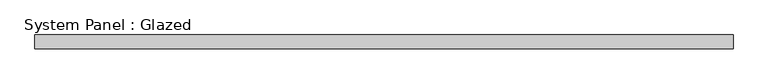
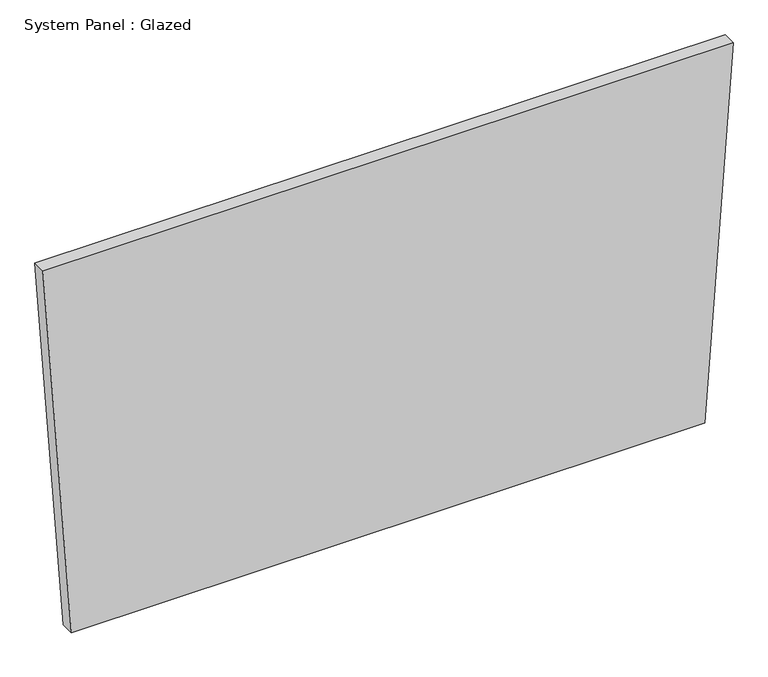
"""IFC4 building model written with IfcOpenShell, lengths in millimetres: plate geometry, System Panel : Glazed."""

import ifcopenshell
import ifcopenshell.guid

model = None  # the IFC model being written
_history = None  # IfcOwnerHistory: only IFC2X3 demands one
_inside = {}  # id of a spatial element -> (the spatial element, [elements in it])
_under = {}  # id of a project, library or spatial element -> (it, [spatial elements below it])
_declared = {}  # id of a project -> (the project, [libraries it declares])
_typed = {}  # id of a type object -> (the type object, [elements of that type])
_made_of = {}  # id of a material, layer set ... -> (it, [elements and type objects made of it])


def new_model(schema):
    """Start an empty IFC model of exactly this schema.

    Asked for "IFC4X3", IfcOpenShell would pick the latest addendum, in which some entities
    have other attributes; the version numbers below select the first issue.
    IFC2X3 requires an IfcOwnerHistory on every rooted entity: one is made here for all.
    """
    global model, _history
    if schema == "IFC4X3":
        model = ifcopenshell.file(schema_version=(4, 3, 0, 0))
    else:
        model = ifcopenshell.file(schema=schema)
    _inside.clear()
    _under.clear()
    _declared.clear()
    _typed.clear()
    _made_of.clear()
    _history = None
    if model.schema == "IFC2X3":
        org = make("IfcOrganization", Name="unknown")
        user = make(
            "IfcPersonAndOrganization",
            ThePerson=make("IfcPerson", FamilyName="unknown"),
            TheOrganization=org,
        )
        app = make(
            "IfcApplication",
            ApplicationDeveloper=org,
            Version="unknown",
            ApplicationFullName="unknown",
            ApplicationIdentifier="unknown",
        )
        _history = make(
            "IfcOwnerHistory",
            OwningUser=user,
            OwningApplication=app,
            ChangeAction="ADDED",
            CreationDate=0,
        )
    return model


def make(cls, **values):
    """One entity of the class cls with the attributes given. An attribute that is None is left unset."""
    return model.create_entity(
        cls, **{name: value for name, value in values.items() if value is not None}
    )


def rooted(cls, **values):
    """An entity with a GlobalId (a new one), such as an element, a storey or a relation."""
    return make(cls, GlobalId=ifcopenshell.guid.new(), OwnerHistory=_history, **values)


def si_unit(unit_type, name, prefix=None):
    """IfcSIUnit, for example si_unit("LENGTHUNIT", "METRE", prefix="MILLI")."""
    return make("IfcSIUnit", UnitType=unit_type, Prefix=prefix, Name=name)


def assignment(units):
    """IfcUnitAssignment: the units of a project."""
    return None if units is None else make("IfcUnitAssignment", Units=units)


def point(xyz):
    """IfcCartesianPoint."""
    return None if xyz is None else make("IfcCartesianPoint", Coordinates=xyz)


def direction(xyz):
    """IfcDirection."""
    return None if xyz is None else make("IfcDirection", DirectionRatios=xyz)


def frame(location, z_axis=None, x_axis=None):
    """IfcAxis2Placement3D, a coordinate frame: its origin and axes. An axis left out is left unset."""
    return make(
        "IfcAxis2Placement3D",
        Location=point(location),
        Axis=direction(z_axis),
        RefDirection=direction(x_axis),
    )


def origin():
    """The frame at (0, 0, 0) with its axes left unset."""
    return frame((0.0, 0.0, 0.0))


def place(relative_to, where):
    """IfcLocalPlacement: puts the frame where relative to a parent placement (None: the world)."""
    return make(
        "IfcLocalPlacement", PlacementRelTo=relative_to, RelativePlacement=where
    )


def context(
    kind, dimensions, precision=None, world=None, true_north=None, identifier=None
):
    """IfcGeometricRepresentationContext, for example the 3D "Model" context."""
    return make(
        "IfcGeometricRepresentationContext",
        ContextIdentifier=identifier,
        ContextType=kind,
        CoordinateSpaceDimension=dimensions,
        Precision=precision,
        WorldCoordinateSystem=world,
        TrueNorth=true_north,
    )


def project(units=None, contexts=None):
    """IfcProject with its units and contexts."""
    return rooted(
        "IfcProject",
        Name="project",
        RepresentationContexts=contexts,
        UnitsInContext=assignment(units),
    )


def spatial(cls, under=None, at=None, **own):
    """A site, building, storey or space (cls), placed at a placement, below another one or the project."""
    s = rooted(cls, ObjectPlacement=at, **own)
    if under is not None:
        _under.setdefault(under.id(), (under, []))[1].append(s)
    return s


def polyline(points):
    """IfcPolyline through the points."""
    return make("IfcPolyline", Points=[point(p) for p in points])


def outline(outer, holes=None, kind="AREA"):
    """IfcArbitraryClosedProfileDef: a profile drawn as a closed curve; with holes, ...WithVoids."""
    if holes is None:
        return make("IfcArbitraryClosedProfileDef", ProfileType=kind, OuterCurve=outer)
    return make(
        "IfcArbitraryProfileDefWithVoids",
        ProfileType=kind,
        OuterCurve=outer,
        InnerCurves=holes,
    )


def extrude(swept, where, along, depth):
    """IfcExtrudedAreaSolid: the profile swept, set in the frame where, extruded along a direction by depth."""
    return make(
        "IfcExtrudedAreaSolid",
        SweptArea=swept,
        Position=where,
        ExtrudedDirection=direction(along),
        Depth=depth,
    )


def shape(context_of_items, identifier, shape_type, items):
    """IfcShapeRepresentation: the items that make up one representation, for example the "Body"."""
    return make(
        "IfcShapeRepresentation",
        ContextOfItems=context_of_items,
        RepresentationIdentifier=identifier,
        RepresentationType=shape_type,
        Items=items,
    )


def source(mapping_origin, context_of_items, identifier, shape_type, items):
    """IfcRepresentationMap: a shape defined once, which mapped items show again and again."""
    return make(
        "IfcRepresentationMap",
        MappingOrigin=mapping_origin,
        MappedRepresentation=shape(context_of_items, identifier, shape_type, items),
    )


def transform(
    local_origin,
    x_axis=None,
    y_axis=None,
    z_axis=None,
    scale=None,
    scale2=None,
    scale3=None,
    uniform=True,
):
    """IfcCartesianTransformationOperator3D, or its non-uniform kind. x_axis, y_axis, z_axis: its Axis1, 2, 3."""
    if uniform:
        return make(
            "IfcCartesianTransformationOperator3D",
            Axis1=direction(x_axis),
            Axis2=direction(y_axis),
            LocalOrigin=point(local_origin),
            Scale=scale,
            Axis3=direction(z_axis),
        )
    return make(
        "IfcCartesianTransformationOperator3DnonUniform",
        Axis1=direction(x_axis),
        Axis2=direction(y_axis),
        LocalOrigin=point(local_origin),
        Scale=scale,
        Axis3=direction(z_axis),
        Scale2=scale2,
        Scale3=scale3,
    )


def mapped(mapping_source, mapping_target):
    """IfcMappedItem: shows the shape of a source again, moved by a transform."""
    return make(
        "IfcMappedItem", MappingSource=mapping_source, MappingTarget=mapping_target
    )


def made_of(thing, what):
    """Note that an element or type object is made of a material, layer set ...; save() writes the relation."""
    if what is not None:
        _made_of.setdefault(what.id(), (what, []))[1].append(thing)
    return thing


def element(
    cls,
    number,
    at=None,
    inside=None,
    cuts=None,
    type_object=None,
    material=None,
    context=None,
    identifier="Body",
    shape_type=None,
    held_by="IfcProductDefinitionShape",
    body=None,
    shapes=None,
    **own,
):
    """One element of the class cls, such as IfcWall. Its Tag is "e" and its number.

    at: its placement. inside: the storey or other place that contains it. cuts: it is an
    opening in that element (IfcRelVoidsElement). A single representation is given by context,
    identifier, shape_type and body (its items); several are given by shapes. held_by: the class
    of the entity that holds the representations. save() writes the other relations.
    """
    e = rooted(cls, Tag="e%d" % number, ObjectPlacement=at, **own)
    if body is not None:
        shapes = [shape(context, identifier, shape_type, body)]
    if shapes is not None:
        e.Representation = make(held_by, Representations=shapes)
    if inside is not None:
        _inside.setdefault(inside.id(), (inside, []))[1].append(e)
    if cuts is not None:
        rooted(
            "IfcRelVoidsElement", RelatingBuildingElement=cuts, RelatedOpeningElement=e
        )
    if type_object is not None:
        _typed.setdefault(type_object.id(), (type_object, []))[1].append(e)
    return made_of(e, material)


def aggregate(whole, parts):
    """IfcRelAggregates: a whole, such as a stair, and the parts it consists of."""
    return rooted("IfcRelAggregates", RelatingObject=whole, RelatedObjects=parts)


def save(model, path):
    """Write the relations noted so far, then the file.

    IfcRelAggregates (storeys below a building ...), IfcRelContainedInSpatialStructure (elements
    in a storey), IfcRelDefinesByType, IfcRelAssociatesMaterial and IfcRelDeclares: one each for
    every whole, place, type object, material and project.
    """
    for whole, parts in _under.values():
        aggregate(whole, parts)
    for where, things in _inside.values():
        rooted(
            "IfcRelContainedInSpatialStructure",
            RelatedElements=things,
            RelatingStructure=where,
        )
    for kind, things in _typed.values():
        rooted("IfcRelDefinesByType", RelatedObjects=things, RelatingType=kind)
    for what, things in _made_of.values():
        rooted("IfcRelAssociatesMaterial", RelatedObjects=things, RelatingMaterial=what)
    for by, libraries in _declared.values():
        rooted("IfcRelDeclares", RelatingContext=by, RelatedDefinitions=libraries)
    model.write(path)


def system_panel_glazed_829d08a9(model_context):
    return source(origin(), model_context, "Body", "SweptSolid", [
        extrude(outline(polyline([(0.0, -583.3351937), (0.0049693, 583.3351612), (723.004984, 635.8464292), (722.9995674, -635.8464292), (0.0, -583.3351937)])), frame((0.0, 19.05, 0.0), z_axis=(0.0, 1.0, 0.0), x_axis=(0.0, 0.0, 1.0)), (0.0, 0.0, 1.0), 25.4),
    ])


if __name__ == "__main__":
    model = new_model("IFC4")
    model_context = context("Model", 3, world=origin())
    ifc_project = project(units=[si_unit("LENGTHUNIT", "METRE", prefix="MILLI")], contexts=[model_context])
    site = spatial("IfcSite", under=ifc_project)
    building = spatial("IfcBuilding", under=site)
    placement = place(None, origin())
    system_panel_glazed_shape = system_panel_glazed_829d08a9(model_context)
    element("IfcPlate", 1, ObjectType="System Panel : Glazed", at=placement, inside=building, context=model_context, shape_type="MappedRepresentation", body=[
        mapped(system_panel_glazed_shape, transform((0.0, 0.0, 0.0), x_axis=(1.0, 0.0, 0.0), y_axis=(0.0, 1.0, 0.0), z_axis=(0.0, 0.0, 1.0))),
    ])
    save(model, "model.ifc")
